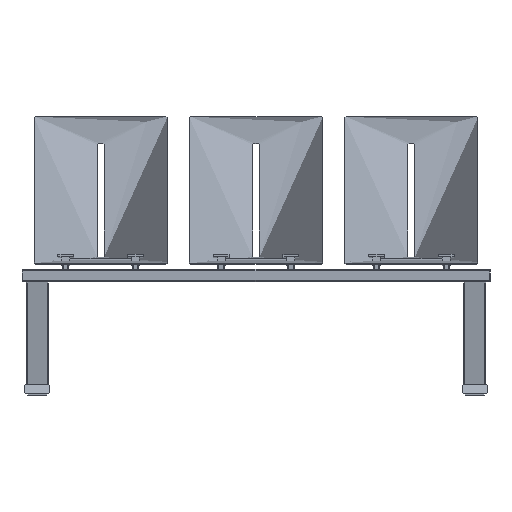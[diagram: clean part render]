
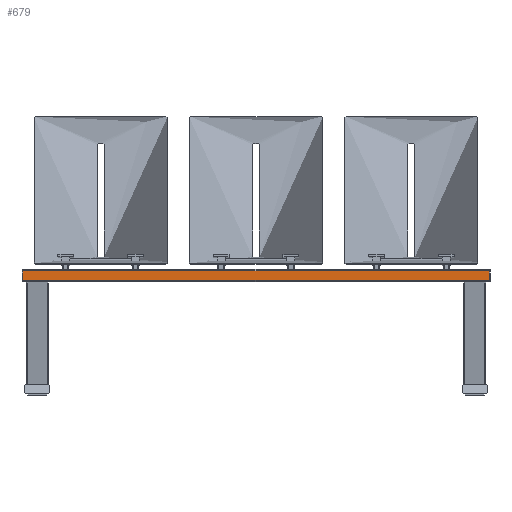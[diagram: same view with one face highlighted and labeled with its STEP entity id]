
A CAD part, front view. The second image highlights one B-rep face of the part: STEP entity #679.
In plain terms, the highlighted free-form (B-spline) face has degree [2, 1] with [3, 2] control points.
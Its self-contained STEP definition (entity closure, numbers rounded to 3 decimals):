
#182=(
BOUNDED_CURVE()
B_SPLINE_CURVE(1,(#17006,#17007),.UNSPECIFIED.,.F.,.F.)
B_SPLINE_CURVE_WITH_KNOTS((2,2),(0.,980.),.UNSPECIFIED.)
CURVE()
GEOMETRIC_REPRESENTATION_ITEM()
RATIONAL_B_SPLINE_CURVE((1.,1.))
REPRESENTATION_ITEM('')
);
#184=(
BOUNDED_CURVE()
B_SPLINE_CURVE(2,(#17011,#17012,#17013),.UNSPECIFIED.,.F.,.F.)
B_SPLINE_CURVE_WITH_KNOTS((3,3),(-107.854,-77.854),
 .UNSPECIFIED.)
CURVE()
GEOMETRIC_REPRESENTATION_ITEM()
RATIONAL_B_SPLINE_CURVE((1.,1.,1.))
REPRESENTATION_ITEM('')
);
#185=(
BOUNDED_CURVE()
B_SPLINE_CURVE(1,(#17014,#17015),.UNSPECIFIED.,.F.,.F.)
B_SPLINE_CURVE_WITH_KNOTS((2,2),(0.,980.),.UNSPECIFIED.)
CURVE()
GEOMETRIC_REPRESENTATION_ITEM()
RATIONAL_B_SPLINE_CURVE((1.,1.))
REPRESENTATION_ITEM('')
);
#186=(
BOUNDED_CURVE()
B_SPLINE_CURVE(2,(#17016,#17017,#17018),.UNSPECIFIED.,.F.,.F.)
B_SPLINE_CURVE_WITH_KNOTS((3,3),(-107.854,-77.854),
 .UNSPECIFIED.)
CURVE()
GEOMETRIC_REPRESENTATION_ITEM()
RATIONAL_B_SPLINE_CURVE((1.,1.,1.))
REPRESENTATION_ITEM('')
);
#334=(
BOUNDED_SURFACE()
B_SPLINE_SURFACE(2,1,((#16935,#16936),(#16937,#16938),(#16939,#16940)),
 .UNSPECIFIED.,.F.,.F.,.F.)
B_SPLINE_SURFACE_WITH_KNOTS((3,3),(2,2),(-107.854,-77.854),
(0.,980.),.UNSPECIFIED.)
GEOMETRIC_REPRESENTATION_ITEM()
RATIONAL_B_SPLINE_SURFACE(((1.,1.),(1.,1.),(1.,1.)))
REPRESENTATION_ITEM('')
SURFACE()
);
#679=ADVANCED_FACE('',(#1005),#334,.T.);
#1005=FACE_OUTER_BOUND('',#1337,.T.);
#1337=EDGE_LOOP('',(#2500,#2501,#2502,#2503));
#2500=ORIENTED_EDGE('',*,*,#3506,.T.);
#2501=ORIENTED_EDGE('',*,*,#3507,.T.);
#2502=ORIENTED_EDGE('',*,*,#3508,.F.);
#2503=ORIENTED_EDGE('',*,*,#3504,.F.);
#3504=EDGE_CURVE('',#4796,#4797,#182,.T.);
#3506=EDGE_CURVE('',#4796,#4798,#184,.T.);
#3507=EDGE_CURVE('',#4798,#4799,#185,.T.);
#3508=EDGE_CURVE('',#4797,#4799,#186,.T.);
#4796=VERTEX_POINT('',#16963);
#4797=VERTEX_POINT('',#16964);
#4798=VERTEX_POINT('',#16965);
#4799=VERTEX_POINT('',#16966);
#16935=CARTESIAN_POINT('',(-735.,-73.244,392.441));
#16936=CARTESIAN_POINT('',(735.,-73.244,392.441));
#16937=CARTESIAN_POINT('',(-735.,-73.244,377.441));
#16938=CARTESIAN_POINT('',(735.,-73.244,377.441));
#16939=CARTESIAN_POINT('',(-735.,-73.244,362.441));
#16940=CARTESIAN_POINT('',(735.,-73.244,362.441));
#16963=CARTESIAN_POINT('',(-735.,-73.244,392.441));
#16964=CARTESIAN_POINT('',(735.,-73.244,392.441));
#16965=CARTESIAN_POINT('',(-735.,-73.244,362.441));
#16966=CARTESIAN_POINT('',(735.,-73.244,362.441));
#17006=CARTESIAN_POINT('',(-735.,-73.244,392.441));
#17007=CARTESIAN_POINT('',(735.,-73.244,392.441));
#17011=CARTESIAN_POINT('',(-735.,-73.244,392.441));
#17012=CARTESIAN_POINT('',(-735.,-73.244,377.441));
#17013=CARTESIAN_POINT('',(-735.,-73.244,362.441));
#17014=CARTESIAN_POINT('',(-735.,-73.244,362.441));
#17015=CARTESIAN_POINT('',(735.,-73.244,362.441));
#17016=CARTESIAN_POINT('',(735.,-73.244,392.441));
#17017=CARTESIAN_POINT('',(735.,-73.244,377.441));
#17018=CARTESIAN_POINT('',(735.,-73.244,362.441));
